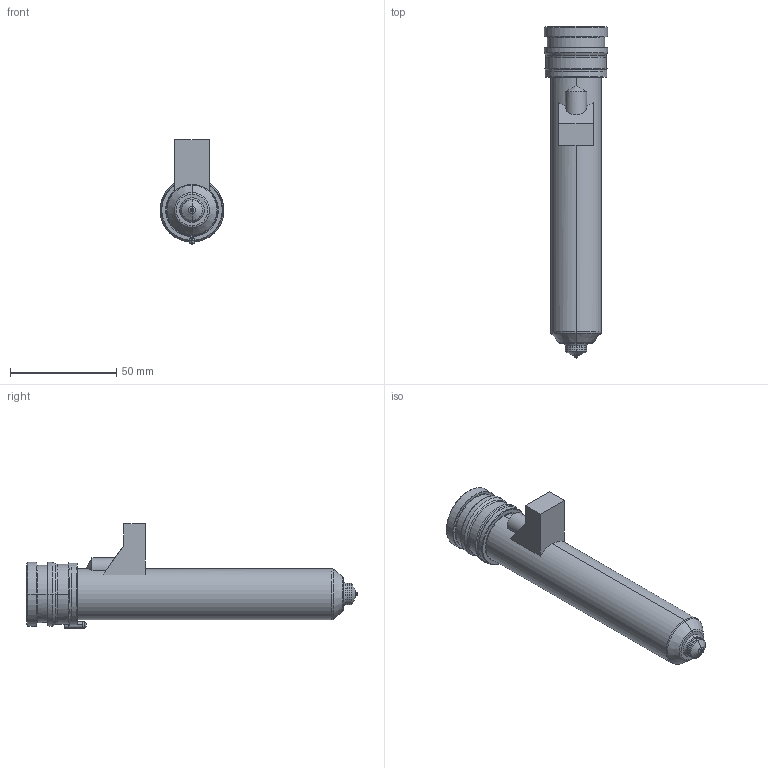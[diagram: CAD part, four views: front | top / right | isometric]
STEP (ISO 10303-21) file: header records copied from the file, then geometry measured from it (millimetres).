
FILE_DESCRIPTION((''),'2;1');
FILE_NAME('MPN-10-29-VSA10-136-M','2026-02-05T13:01:07',('UPTIO'),('Thermoplay S.p.A.'),'CREO PARAMETRIC BY PTC INC, 2023494','CREO PARAMETRIC BY PTC INC, 2023494','');
FILE_SCHEMA(('CONFIG_CONTROL_DESIGN','SHAPE_APPEARANCE_LAYERS_GROUPS'));
Length unit declared in the file: millimetre
Products named in the file (1): MPN-10-29-VSA10-136-M
Bounding box: 30 x 156 x 49 mm (x, y, z)
Volume: 49059.5 mm3; surface area: 50436.5 mm2
Topology: 3 solids, 5 shells, 546 faces, 1379 edges, 839 vertices
Faces by surface type: cylinder 181, plane 145, bspline 71, torus 69, cone 68, sphere 8, extrusion 4
Entity records: 28650 total; most frequent: CARTESIAN_POINT 12786, ORIENTED_EDGE 2744, DIRECTION 2618, EDGE_CURVE 1372, AXIS2_PLACEMENT_3D 1038, VERTEX_POINT 839, EDGE_LOOP 575, CIRCLE 566
